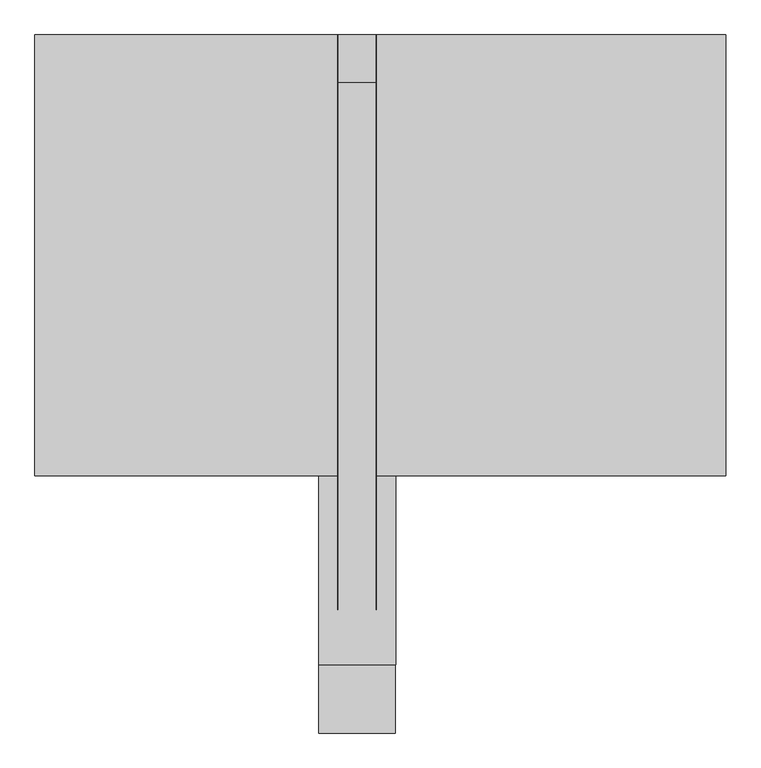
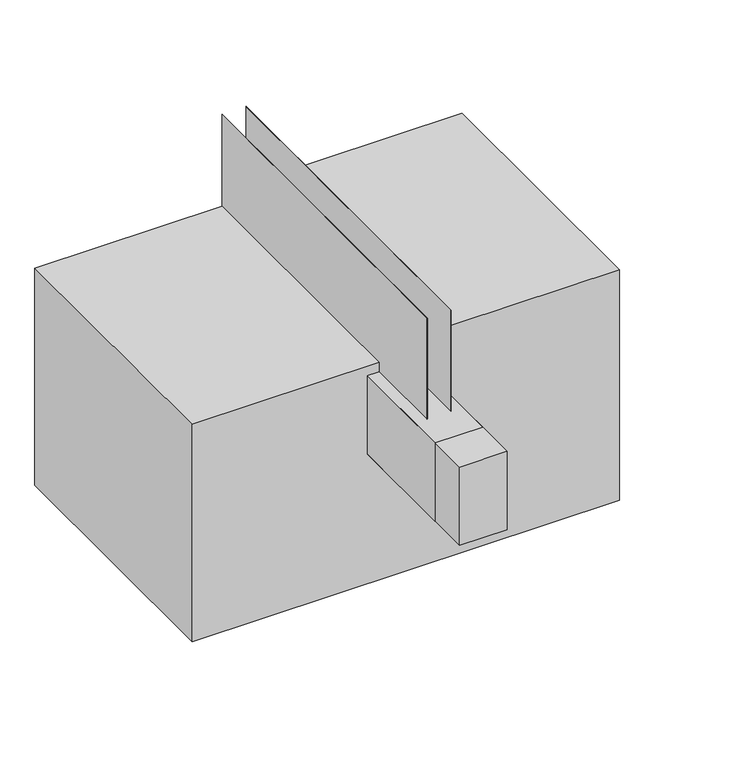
"""IFC4 building model written with IfcOpenShell, lengths in millimetres: proxy geometry, IMPER:IMPER:433934 : IMPER:IMPER:433934."""

from ifc_helpers import new_model, si_unit, frame, origin, place, context, project, spatial, polyline, outline, extrude, source, transform, mapped, element, save


def generic_models_f47f14e8(model_context):
    return source(origin(), model_context, "Body", "SweptSolid", [
        extrude(outline(polyline([(-326.9704105, 145.8700195), (-325.9704105, 145.8700195), (-325.9704105, -2854.1299805), (-326.9704105, -2854.1299805), (-326.9704105, 145.8700195)])), frame((0.0, 0.0, -603.3780272), z_axis=(0.0, 0.0, 1.0), x_axis=(1.0, 0.0, 0.0)), (0.0, 0.0, 1.0), 900.8542292),
        extrude(outline(polyline([(-527.9704105, 145.8700195), (-526.9704105, 145.8700195), (-526.9704105, -2854.1299805), (-527.9704105, -2854.1299805), (-527.9704105, 145.8700195)])), frame((0.0, 0.0, -603.3780272), z_axis=(0.0, 0.0, 1.0), x_axis=(1.0, 0.0, 0.0)), (0.0, 0.0, 1.0), 900.8542292),
        extrude(outline(polyline([(-603.3780272, -627.9704105), (-1305.3780272, -627.9704105), (-1305.3780272, -225.9704105), (-603.3780272, -225.9704105), (-603.3780272, -627.9704105)]), holes=[polyline([(-604.3780272, -626.9704105), (-604.3780272, -226.9704105), (-1304.3780272, -226.9704105), (-1304.3780272, -626.9704105), (-604.3780272, -626.9704105)])]), frame((0.0, -3142.3995487, 0.0), z_axis=(0.0, 1.0, 0.0), x_axis=(0.0, 0.0, 1.0)), (0.0, 0.0, 1.0), 3038.2695682),
        extrude(outline(polyline([(-604.3780272, -326.9704105), (-604.3780272, -226.9704105), (-1304.3780272, -226.9704105), (-1304.3780272, -626.9704105), (-604.3780272, -626.9704105), (-604.3780272, -526.9704105), (-520.527667, -526.9704105), (-520.527667, -2108.6071009), (-2459.4927087, -2108.6071009), (-2459.4927087, 1498.0295895), (-402.523798, 1498.0295895), (-402.523798, -326.9704105), (-604.3780272, -326.9704105)])), frame((0.0, -2154.1299805, 0.0), z_axis=(0.0, 1.0, 0.0), x_axis=(0.0, 0.0, 1.0)), (0.0, 0.0, 1.0), 2300.0),
        extrude(outline(polyline([(-626.9704105, 145.8700195), (-226.9704105, 145.8700195), (-226.9704105, -3498.0442835), (-626.9704105, -3498.0442835), (-626.9704105, 145.8700195)])), frame((0.0, 0.0, -1304.3780272), z_axis=(0.0, 0.0, 1.0), x_axis=(1.0, 0.0, 0.0)), (0.0, 0.0, 1.0), 700.0),
    ])


if __name__ == "__main__":
    model = new_model("IFC4")
    model_context = context("Model", 3, world=origin())
    ifc_project = project(units=[si_unit("LENGTHUNIT", "METRE", prefix="MILLI")], contexts=[model_context])
    site = spatial("IfcSite", under=ifc_project)
    building = spatial("IfcBuilding", under=site)
    placement = place(None, origin())
    generic_models_shape = generic_models_f47f14e8(model_context)
    element("IfcBuildingElementProxy", 1, Name="IMPER:IMPER:433934 : IMPER:IMPER:433934", ObjectType="IMPER:IMPER:433934 : IMPER:IMPER:433934", at=placement, inside=building, context=model_context, shape_type="MappedRepresentation", body=[
        mapped(generic_models_shape, transform((0.0, 0.0, 0.0), x_axis=(1.0, 0.0, 0.0), y_axis=(0.0, 1.0, 0.0), z_axis=(0.0, 0.0, 1.0))),
    ])
    save(model, "model.ifc")
